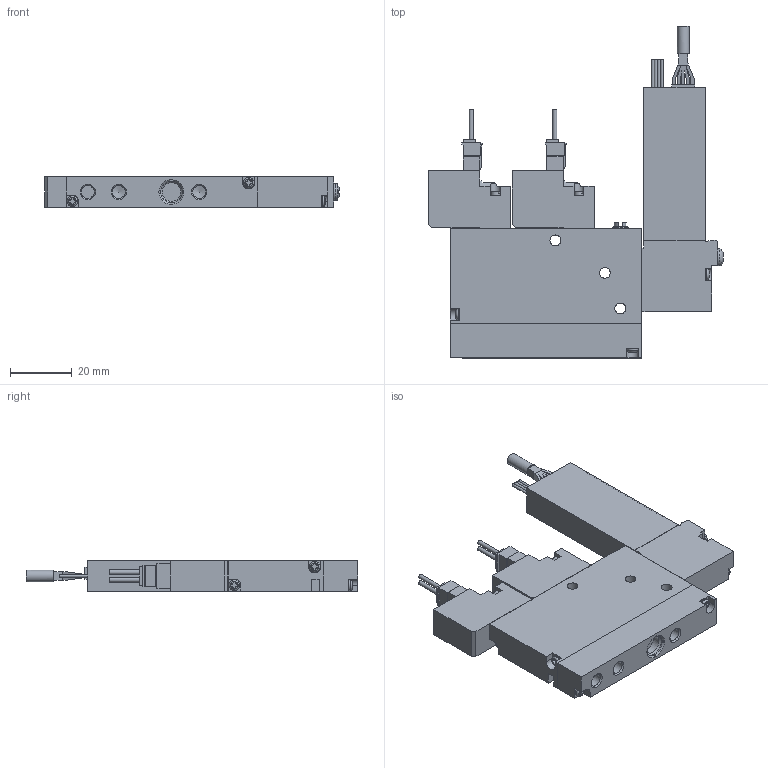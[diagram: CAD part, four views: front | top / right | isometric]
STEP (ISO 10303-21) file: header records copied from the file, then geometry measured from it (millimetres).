
FILE_DESCRIPTION(('STEP AP203'),'1');
FILE_NAME('BMPV42S10.10P.10PS.5A(B).stp','2025-04-30T01:10:52',(' '),(' '),'Spatial InterOp 3D',' ',' ');
FILE_SCHEMA(('CONFIG_CONTROL_DESIGN'));
Length unit declared in the file: millimetre
Products named in the file (5): BMPV42S10.10P.10PS.5A(B); VACUUM VALVE FUNCTION MPV42-A; VACUUM SENSOR MPV42-10; UNIT-MPV42; MPV42-S10R-1
Assembly tree (5 placements, depth 2):
  BMPV42S10.10P.10PS.5A(B)
    VACUUM VALVE FUNCTION MPV42-A  x2
    VACUUM SENSOR MPV42-10
    UNIT-MPV42
    MPV42-S10R-1
Bounding box: 95.35 x 107.3 x 10 mm (x, y, z)
Volume: 49675.3 mm3; surface area: 19487.5 mm2
Topology: 5 solids, 5 shells, 459 faces, 1214 edges, 797 vertices
Faces by surface type: plane 340, cylinder 91, cone 14, sphere 7, torus 7
Full cylindrical faces by diameter (mm): 0.9 x4, 1.4 x4, 1.8 x1, 2.2 x2, 3 x4, 3.5 x13, 3.8 x1, 4.134 x5, 5 x1, 5.5 x1, 6 x1, 7 x1
Entity records: 11083 total; most frequent: CARTESIAN_POINT 2210, DIRECTION 1763, ORIENTED_EDGE 1718, EDGE_CURVE 859, LINE 611, VECTOR 611, VERTEX_POINT 593, AXIS2_PLACEMENT_3D 576
